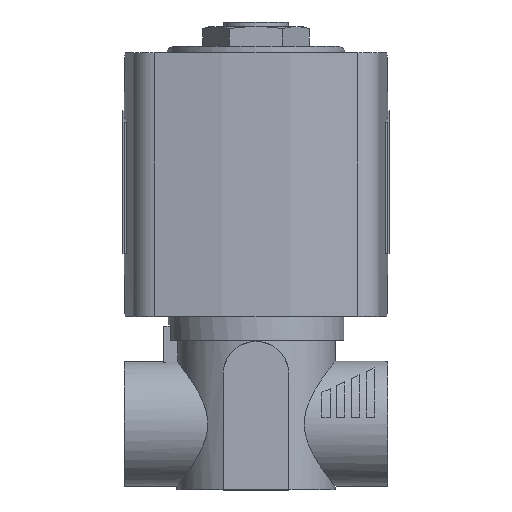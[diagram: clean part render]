
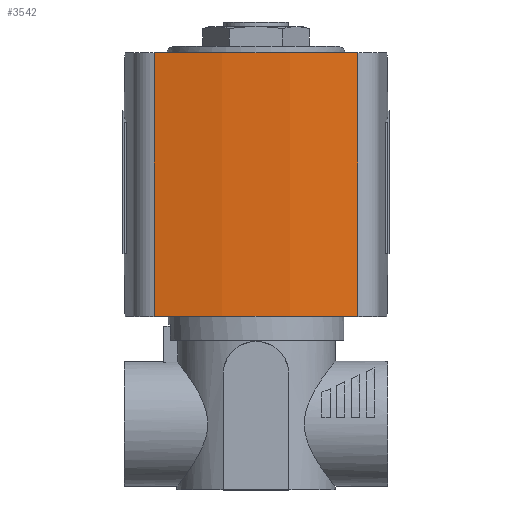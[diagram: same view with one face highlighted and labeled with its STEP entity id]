
A CAD part, top view. The second image highlights one B-rep face of the part: STEP entity #3542.
In plain terms, the highlighted cylindrical face has radius 80 mm (diameter 160 mm), a partial arc.
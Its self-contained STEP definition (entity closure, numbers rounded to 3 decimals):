
#307=LINE('',#5157,#522);
#308=LINE('',#5161,#523);
#522=VECTOR('',#4341,1000.);
#523=VECTOR('',#4346,1000.);
#971=ORIENTED_EDGE('',*,*,#1514,.T.);
#972=ORIENTED_EDGE('',*,*,#1515,.F.);
#973=ORIENTED_EDGE('',*,*,#1462,.F.);
#974=ORIENTED_EDGE('',*,*,#1513,.T.);
#1462=EDGE_CURVE('',#1766,#1767,#1927,.T.);
#1513=EDGE_CURVE('',#1766,#1810,#307,.T.);
#1514=EDGE_CURVE('',#1810,#1811,#1948,.T.);
#1515=EDGE_CURVE('',#1767,#1811,#308,.T.);
#1766=VERTEX_POINT('',#5057);
#1767=VERTEX_POINT('',#5058);
#1810=VERTEX_POINT('',#5156);
#1811=VERTEX_POINT('',#5160);
#1927=CIRCLE('',#3766,80.);
#1948=CIRCLE('',#3801,80.);
#2071=EDGE_LOOP('',(#971,#972,#973,#974));
#2271=FACE_BOUND('',#2071,.T.);
#2381=CYLINDRICAL_SURFACE('',#3800,80.);
#3542=ADVANCED_FACE('',(#2271),#2381,.T.);
#3766=AXIS2_PLACEMENT_3D('',#5056,#4251,#4252);
#3800=AXIS2_PLACEMENT_3D('',#5158,#4342,#4343);
#3801=AXIS2_PLACEMENT_3D('',#5159,#4344,#4345);
#4251=DIRECTION('',(0.,1.,0.));
#4252=DIRECTION('',(1.,0.,0.));
#4341=DIRECTION('',(0.,-1.,0.));
#4342=DIRECTION('',(0.,-1.,0.));
#4343=DIRECTION('',(0.,0.,-1.));
#4344=DIRECTION('',(0.,1.,0.));
#4345=DIRECTION('',(1.,0.,0.));
#4346=DIRECTION('',(0.,-1.,0.));
#5056=CARTESIAN_POINT('',(-56.5,14.,0.));
#5057=CARTESIAN_POINT('',(21.99,14.,15.472));
#5058=CARTESIAN_POINT('',(21.99,14.,-15.472));
#5156=CARTESIAN_POINT('',(21.99,-26.,15.472));
#5157=CARTESIAN_POINT('',(21.99,14.,15.472));
#5158=CARTESIAN_POINT('',(-56.5,14.,0.));
#5159=CARTESIAN_POINT('',(-56.5,-26.,0.));
#5160=CARTESIAN_POINT('',(21.99,-26.,-15.472));
#5161=CARTESIAN_POINT('',(21.99,14.,-15.472));
